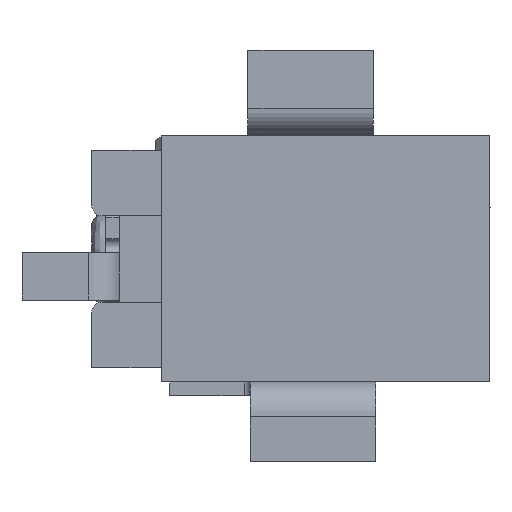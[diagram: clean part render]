
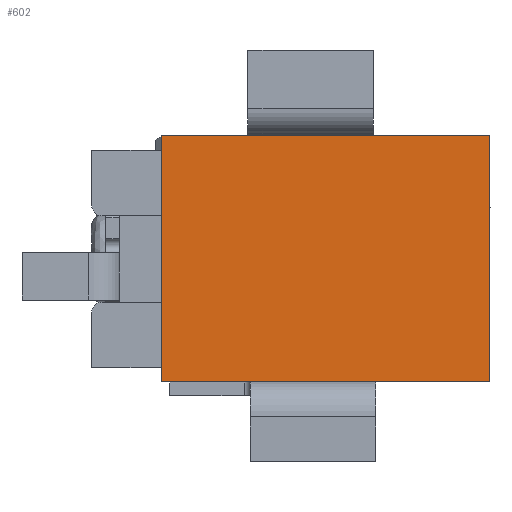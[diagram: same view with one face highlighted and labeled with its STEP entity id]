
A CAD part, front view. The second image highlights one B-rep face of the part: STEP entity #602.
In plain terms, the highlighted planar face has unit normal (0, -1, 0).
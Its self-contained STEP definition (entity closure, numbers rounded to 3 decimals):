
#414 = CARTESIAN_POINT ( 'NONE',  ( 5.207, -6.477, -4.496 ) ) ;
#481 = DIRECTION ( 'NONE',  ( 0., 0., 1. ) ) ;
#501 = DIRECTION ( 'NONE',  ( 0., -1., 0. ) ) ;
#602 = ADVANCED_FACE ( 'NONE', ( #4016 ), #3546, .T. ) ;
#1002 = CARTESIAN_POINT ( 'NONE',  ( 1.684, -6.477, 4.676 ) ) ;
#1360 = CARTESIAN_POINT ( 'NONE',  ( -6.782, -6.477, -4.496 ) ) ;
#1372 = VECTOR ( 'NONE', #5516, 1000. ) ;
#1446 = ORIENTED_EDGE ( 'NONE', *, *, #2847, .T. ) ;
#1515 = VECTOR ( 'NONE', #1928, 1000. ) ;
#1569 = CARTESIAN_POINT ( 'NONE',  ( 5.207, -6.477, 4.676 ) ) ;
#1916 = ORIENTED_EDGE ( 'NONE', *, *, #5406, .T. ) ;
#1928 = DIRECTION ( 'NONE',  ( 1., 0., 0. ) ) ;
#2195 = VERTEX_POINT ( 'NONE', #6136 ) ;
#2369 = CARTESIAN_POINT ( 'NONE',  ( 1.684, -6.477, -4.496 ) ) ;
#2533 = AXIS2_PLACEMENT_3D ( 'NONE', #1002, #501, #6056 ) ;
#2833 = EDGE_CURVE ( 'NONE', #5570, #5197, #3479, .T. ) ;
#2847 = EDGE_CURVE ( 'NONE', #4018, #2195, #6165, .T. ) ;
#3103 = CARTESIAN_POINT ( 'NONE',  ( 1.684, -6.477, 4.496 ) ) ;
#3442 = ORIENTED_EDGE ( 'NONE', *, *, #5942, .T. ) ;
#3479 = LINE ( 'NONE', #5588, #1372 ) ;
#3540 = LINE ( 'NONE', #3103, #4827 ) ;
#3546 = PLANE ( 'NONE',  #2533 ) ;
#3846 = VECTOR ( 'NONE', #481, 1000. ) ;
#4016 = FACE_OUTER_BOUND ( 'NONE', #4109, .T. ) ;
#4018 = VERTEX_POINT ( 'NONE', #414 ) ;
#4109 = EDGE_LOOP ( 'NONE', ( #1916, #5707, #3442, #1446 ) ) ;
#4310 = CARTESIAN_POINT ( 'NONE',  ( -6.782, -6.477, 4.496 ) ) ;
#4827 = VECTOR ( 'NONE', #5573, 1000. ) ;
#5197 = VERTEX_POINT ( 'NONE', #1360 ) ;
#5406 = EDGE_CURVE ( 'NONE', #2195, #5570, #3540, .T. ) ;
#5482 = LINE ( 'NONE', #2369, #1515 ) ;
#5516 = DIRECTION ( 'NONE',  ( 0., 0., -1. ) ) ;
#5570 = VERTEX_POINT ( 'NONE', #4310 ) ;
#5573 = DIRECTION ( 'NONE',  ( -1., 0., 0. ) ) ;
#5588 = CARTESIAN_POINT ( 'NONE',  ( -6.782, -6.477, 4.676 ) ) ;
#5707 = ORIENTED_EDGE ( 'NONE', *, *, #2833, .T. ) ;
#5942 = EDGE_CURVE ( 'NONE', #5197, #4018, #5482, .T. ) ;
#6056 = DIRECTION ( 'NONE',  ( 0., 0., -1. ) ) ;
#6136 = CARTESIAN_POINT ( 'NONE',  ( 5.207, -6.477, 4.496 ) ) ;
#6165 = LINE ( 'NONE', #1569, #3846 ) ;
